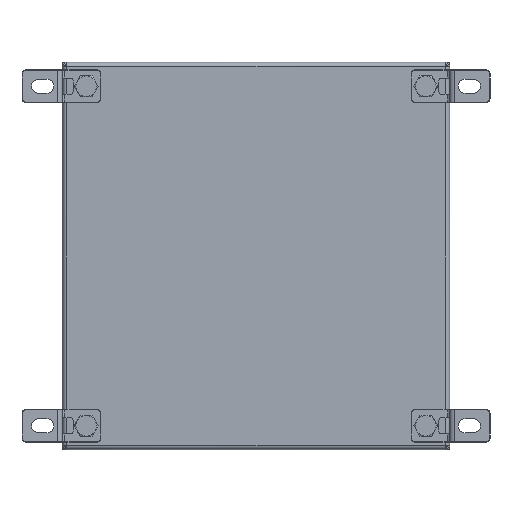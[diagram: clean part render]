
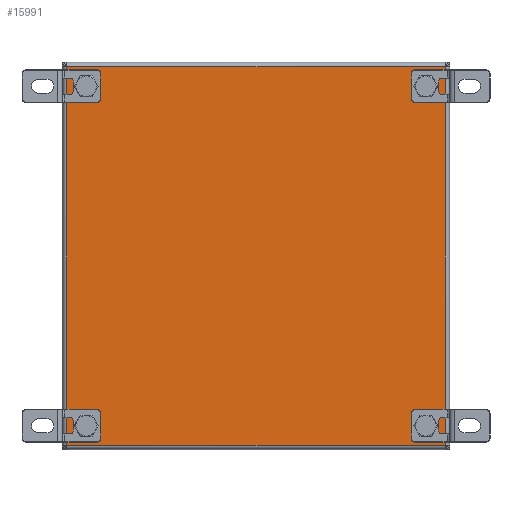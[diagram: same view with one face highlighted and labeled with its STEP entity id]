
A CAD part, front view. The second image highlights one B-rep face of the part: STEP entity #15991.
In plain terms, the highlighted planar face has unit normal (0, -1, 0).
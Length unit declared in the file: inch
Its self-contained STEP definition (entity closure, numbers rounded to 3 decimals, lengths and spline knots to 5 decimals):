
#254 = AXIS2_PLACEMENT_3D ( 'NONE', #27316, #6763, #10246 ) ;
#384 = CARTESIAN_POINT ( 'NONE',  ( 5.17717, 0., 5.17717 ) ) ;
#722 = DIRECTION ( 'NONE',  ( 0., 0., 1. ) ) ;
#873 = CARTESIAN_POINT ( 'NONE',  ( -5.77071, 0., -64.96063 ) ) ;
#981 = EDGE_CURVE ( 'NONE', #42795, #15851, #21756, .T. ) ;
#1591 = CARTESIAN_POINT ( 'NONE',  ( -5.17717, 0., 5.17717 ) ) ;
#1742 = EDGE_CURVE ( 'NONE', #37486, #14425, #12027, .T. ) ;
#1774 = EDGE_CURVE ( 'NONE', #16170, #11648, #34044, .T. ) ;
#2369 = DIRECTION ( 'NONE',  ( 0., 0., 1. ) ) ;
#2640 = ORIENTED_EDGE ( 'NONE', *, *, #4208, .F. ) ;
#2751 = EDGE_CURVE ( 'NONE', #34083, #14400, #43642, .T. ) ;
#3406 = CARTESIAN_POINT ( 'NONE',  ( -5.17717, 0., -5.17717 ) ) ;
#3657 = CARTESIAN_POINT ( 'NONE',  ( 5.17717, 0., 4.98031 ) ) ;
#3977 = DIRECTION ( 'NONE',  ( 0., 0., 1. ) ) ;
#4208 = EDGE_CURVE ( 'NONE', #11648, #16170, #24270, .T. ) ;
#4577 = CIRCLE ( 'NONE', #38593, 0.19685 ) ;
#5129 = DIRECTION ( 'NONE',  ( 0., 0., 1. ) ) ;
#5518 = CARTESIAN_POINT ( 'NONE',  ( 5.17717, 0., 5.17717 ) ) ;
#6688 = CARTESIAN_POINT ( 'NONE',  ( 5.77071, 0., 64.96063 ) ) ;
#6763 = DIRECTION ( 'NONE',  ( 0., -1., 0. ) ) ;
#7115 = EDGE_CURVE ( 'NONE', #14400, #34083, #33423, .T. ) ;
#7167 = FACE_OUTER_BOUND ( 'NONE', #11792, .T. ) ;
#7248 = ORIENTED_EDGE ( 'NONE', *, *, #2751, .F. ) ;
#7610 = CARTESIAN_POINT ( 'NONE',  ( 5.77071, 0., 5.77071 ) ) ;
#7868 = CIRCLE ( 'NONE', #15772, 0.19685 ) ;
#7981 = ORIENTED_EDGE ( 'NONE', *, *, #19215, .F. ) ;
#8300 = CARTESIAN_POINT ( 'NONE',  ( 5.17717, 0., -4.98031 ) ) ;
#8659 = LINE ( 'NONE', #6688, #17220 ) ;
#8883 = DIRECTION ( 'NONE',  ( 1., 0., 0. ) ) ;
#9866 = DIRECTION ( 'NONE',  ( 0., 0., -1. ) ) ;
#10246 = DIRECTION ( 'NONE',  ( 0., 0., 1. ) ) ;
#10941 = FACE_BOUND ( 'NONE', #25193, .T. ) ;
#11379 = CARTESIAN_POINT ( 'NONE',  ( 5.17717, 0., -5.17717 ) ) ;
#11578 = VERTEX_POINT ( 'NONE', #3657 ) ;
#11648 = VERTEX_POINT ( 'NONE', #8300 ) ;
#11792 = EDGE_LOOP ( 'NONE', ( #21606, #43180, #35876, #41280 ) ) ;
#11843 = AXIS2_PLACEMENT_3D ( 'NONE', #12012, #15330, #29575 ) ;
#12012 = CARTESIAN_POINT ( 'NONE',  ( 5.17717, 0., -5.17717 ) ) ;
#12027 = CIRCLE ( 'NONE', #38220, 0.19685 ) ;
#12428 = LINE ( 'NONE', #38821, #20471 ) ;
#12580 = DIRECTION ( 'NONE',  ( 0., -1., 0. ) ) ;
#13164 = DIRECTION ( 'NONE',  ( 0., 0., 1. ) ) ;
#14212 = CARTESIAN_POINT ( 'NONE',  ( 5.17717, 0., 5.37402 ) ) ;
#14400 = VERTEX_POINT ( 'NONE', #39986 ) ;
#14425 = VERTEX_POINT ( 'NONE', #27191 ) ;
#14745 = ORIENTED_EDGE ( 'NONE', *, *, #1774, .F. ) ;
#15330 = DIRECTION ( 'NONE',  ( 0., -1., 0. ) ) ;
#15481 = EDGE_CURVE ( 'NONE', #15851, #24560, #21166, .T. ) ;
#15551 = EDGE_LOOP ( 'NONE', ( #40550, #7248 ) ) ;
#15772 = AXIS2_PLACEMENT_3D ( 'NONE', #384, #41511, #31311 ) ;
#15851 = VERTEX_POINT ( 'NONE', #23608 ) ;
#15991 = ADVANCED_FACE ( 'NONE', ( #39949, #10941, #18461, #34587, #7167 ), #24517, .F. ) ;
#16170 = VERTEX_POINT ( 'NONE', #36381 ) ;
#16688 = ORIENTED_EDGE ( 'NONE', *, *, #1742, .F. ) ;
#17181 = VERTEX_POINT ( 'NONE', #14212 ) ;
#17220 = VECTOR ( 'NONE', #9866, 39.37008 ) ;
#17356 = DIRECTION ( 'NONE',  ( 0., 1., 0. ) ) ;
#17559 = VERTEX_POINT ( 'NONE', #24359 ) ;
#18461 = FACE_BOUND ( 'NONE', #26372, .T. ) ;
#19215 = EDGE_CURVE ( 'NONE', #14425, #37486, #4577, .T. ) ;
#20471 = VECTOR ( 'NONE', #21396, 39.37008 ) ;
#20783 = ORIENTED_EDGE ( 'NONE', *, *, #37022, .F. ) ;
#21166 = LINE ( 'NONE', #26232, #24901 ) ;
#21396 = DIRECTION ( 'NONE',  ( -1., 0., 0. ) ) ;
#21606 = ORIENTED_EDGE ( 'NONE', *, *, #23590, .F. ) ;
#21756 = LINE ( 'NONE', #873, #41079 ) ;
#21865 = DIRECTION ( 'NONE',  ( 0., -1., 0. ) ) ;
#23154 = EDGE_CURVE ( 'NONE', #17559, #42795, #12428, .T. ) ;
#23434 = CARTESIAN_POINT ( 'NONE',  ( -5.17717, 0., 4.98031 ) ) ;
#23498 = AXIS2_PLACEMENT_3D ( 'NONE', #11379, #35396, #35847 ) ;
#23590 = EDGE_CURVE ( 'NONE', #24560, #17559, #8659, .T. ) ;
#23608 = CARTESIAN_POINT ( 'NONE',  ( -5.77071, 0., 5.77071 ) ) ;
#24270 = CIRCLE ( 'NONE', #11843, 0.19685 ) ;
#24359 = CARTESIAN_POINT ( 'NONE',  ( 5.77071, 0., -5.77071 ) ) ;
#24517 = PLANE ( 'NONE',  #30675 ) ;
#24560 = VERTEX_POINT ( 'NONE', #7610 ) ;
#24901 = VECTOR ( 'NONE', #8883, 39.37008 ) ;
#25064 = ORIENTED_EDGE ( 'NONE', *, *, #39243, .F. ) ;
#25193 = EDGE_LOOP ( 'NONE', ( #25064, #20783 ) ) ;
#25675 = DIRECTION ( 'NONE',  ( 0., -1., 0. ) ) ;
#26232 = CARTESIAN_POINT ( 'NONE',  ( -64.96063, 0., 5.77071 ) ) ;
#26372 = EDGE_LOOP ( 'NONE', ( #2640, #14745 ) ) ;
#27191 = CARTESIAN_POINT ( 'NONE',  ( -5.17717, 0., 5.37402 ) ) ;
#27316 = CARTESIAN_POINT ( 'NONE',  ( -5.17717, 0., -5.17717 ) ) ;
#27978 = CARTESIAN_POINT ( 'NONE',  ( 0., 0., 0. ) ) ;
#28782 = DIRECTION ( 'NONE',  ( 0., 0., 1. ) ) ;
#29575 = DIRECTION ( 'NONE',  ( 0., 0., 1. ) ) ;
#30675 = AXIS2_PLACEMENT_3D ( 'NONE', #27978, #17356, #3977 ) ;
#31311 = DIRECTION ( 'NONE',  ( 0., 0., 1. ) ) ;
#31871 = AXIS2_PLACEMENT_3D ( 'NONE', #3406, #33748, #13164 ) ;
#33423 = CIRCLE ( 'NONE', #31871, 0.19685 ) ;
#33748 = DIRECTION ( 'NONE',  ( 0., -1., 0. ) ) ;
#34044 = CIRCLE ( 'NONE', #23498, 0.19685 ) ;
#34083 = VERTEX_POINT ( 'NONE', #35532 ) ;
#34587 = FACE_BOUND ( 'NONE', #15551, .T. ) ;
#35200 = EDGE_LOOP ( 'NONE', ( #7981, #16688 ) ) ;
#35396 = DIRECTION ( 'NONE',  ( 0., -1., 0. ) ) ;
#35532 = CARTESIAN_POINT ( 'NONE',  ( -5.17717, 0., -5.37402 ) ) ;
#35847 = DIRECTION ( 'NONE',  ( 0., 0., 1. ) ) ;
#35876 = ORIENTED_EDGE ( 'NONE', *, *, #981, .F. ) ;
#36381 = CARTESIAN_POINT ( 'NONE',  ( 5.17717, 0., -5.37402 ) ) ;
#37022 = EDGE_CURVE ( 'NONE', #11578, #17181, #7868, .T. ) ;
#37486 = VERTEX_POINT ( 'NONE', #23434 ) ;
#38220 = AXIS2_PLACEMENT_3D ( 'NONE', #1591, #21865, #28782 ) ;
#38593 = AXIS2_PLACEMENT_3D ( 'NONE', #42519, #25675, #5129 ) ;
#38821 = CARTESIAN_POINT ( 'NONE',  ( 64.96063, 0., -5.77071 ) ) ;
#39243 = EDGE_CURVE ( 'NONE', #17181, #11578, #43765, .T. ) ;
#39949 = FACE_BOUND ( 'NONE', #35200, .T. ) ;
#39986 = CARTESIAN_POINT ( 'NONE',  ( -5.17717, 0., -4.98031 ) ) ;
#40550 = ORIENTED_EDGE ( 'NONE', *, *, #7115, .F. ) ;
#41079 = VECTOR ( 'NONE', #722, 39.37008 ) ;
#41280 = ORIENTED_EDGE ( 'NONE', *, *, #23154, .F. ) ;
#41508 = CARTESIAN_POINT ( 'NONE',  ( -5.77071, 0., -5.77071 ) ) ;
#41511 = DIRECTION ( 'NONE',  ( 0., -1., 0. ) ) ;
#41995 = AXIS2_PLACEMENT_3D ( 'NONE', #5518, #12580, #2369 ) ;
#42519 = CARTESIAN_POINT ( 'NONE',  ( -5.17717, 0., 5.17717 ) ) ;
#42795 = VERTEX_POINT ( 'NONE', #41508 ) ;
#43180 = ORIENTED_EDGE ( 'NONE', *, *, #15481, .F. ) ;
#43642 = CIRCLE ( 'NONE', #254, 0.19685 ) ;
#43765 = CIRCLE ( 'NONE', #41995, 0.19685 ) ;
